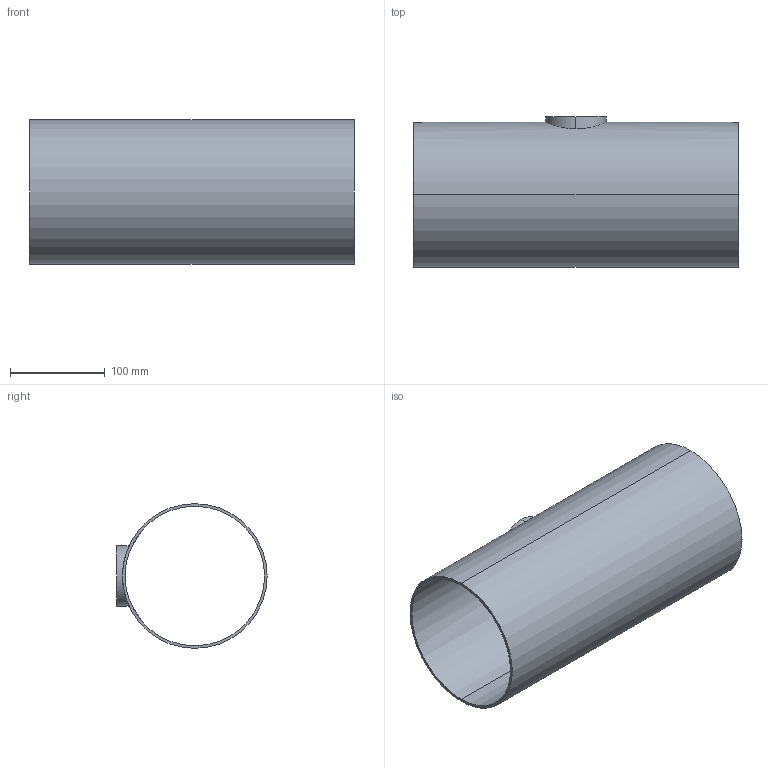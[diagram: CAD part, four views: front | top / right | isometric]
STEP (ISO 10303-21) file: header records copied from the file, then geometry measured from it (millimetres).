
FILE_DESCRIPTION (( 'STEP AP214' ), '1' );
FILE_NAME ('TEG7RS6L6.0x2.5-...STEP', '2016-05-24T11:27:38', ( 'eran' ), ( '' ), 'SwSTEP 2.0', 'SolidWorks 2016', '' );
FILE_SCHEMA (( 'AUTOMOTIVE_DESIGN' ));
Length unit declared in the file: millimetre
Products named in the file (1): TEG7RS6L6.0x2.5-..
Bounding box: 342 x 158.3 x 152.4 mm (x, y, z)
Volume: 440199.7 mm3; surface area: 322409 mm2
Topology: 1 solids, 1 shells, 11 faces, 24 edges, 16 vertices
Faces by surface type: cylinder 8, plane 3
Entity records: 596 total; most frequent: CARTESIAN_POINT 304, DIRECTION 56, ORIENTED_EDGE 48, EDGE_CURVE 24, AXIS2_PLACEMENT_3D 24, EDGE_LOOP 16, VERTEX_POINT 16, CIRCLE 12
